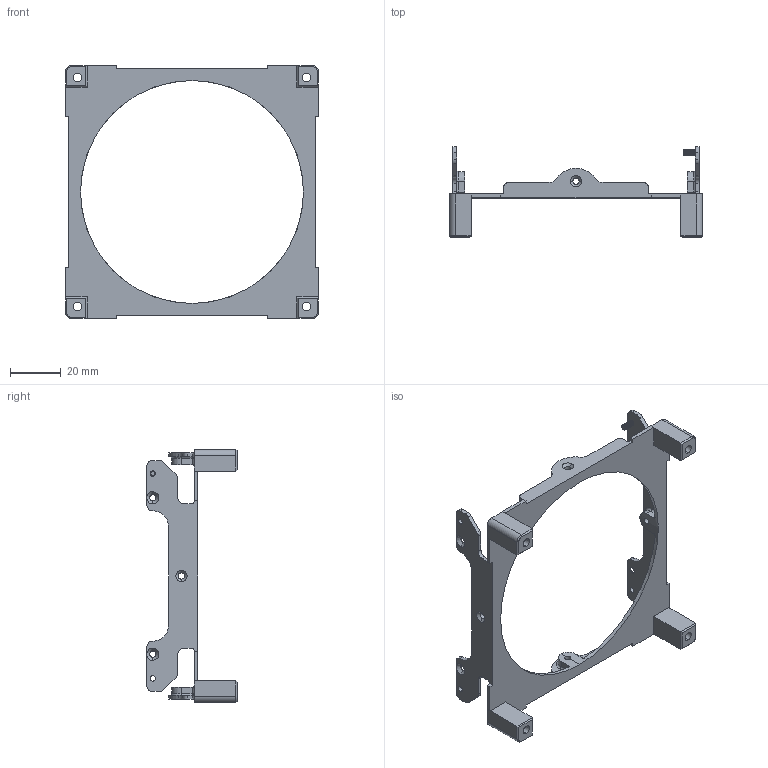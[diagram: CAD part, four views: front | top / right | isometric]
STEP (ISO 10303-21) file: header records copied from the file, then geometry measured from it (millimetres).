
FILE_DESCRIPTION (( 'STEP AP214' ), '1' );
FILE_NAME ('O1 Large Aperture Cover Plate.STEP', '2023-02-26T05:38:02', ( '' ), ( '' ), 'SwSTEP 2.0', 'SolidWorks 2020', '' );
FILE_SCHEMA (( 'AUTOMOTIVE_DESIGN' ));
Length unit declared in the file: inch
Products named in the file (1): O1 Large Aperture Cover Plate
Bounding box: 100 x 35.67 x 100 mm (x, y, z)
Volume: 13905.4 mm3; surface area: 16784.5 mm2
Topology: 1 solids, 1 shells, 318 faces, 864 edges, 536 vertices
Faces by surface type: cylinder 128, plane 114, cone 62, sphere 8, torus 6
Entity records: 10338 total; most frequent: CARTESIAN_POINT 2101, DIRECTION 1776, ORIENTED_EDGE 1712, EDGE_CURVE 856, AXIS2_PLACEMENT_3D 639, VERTEX_POINT 536, LINE 498, VECTOR 498
